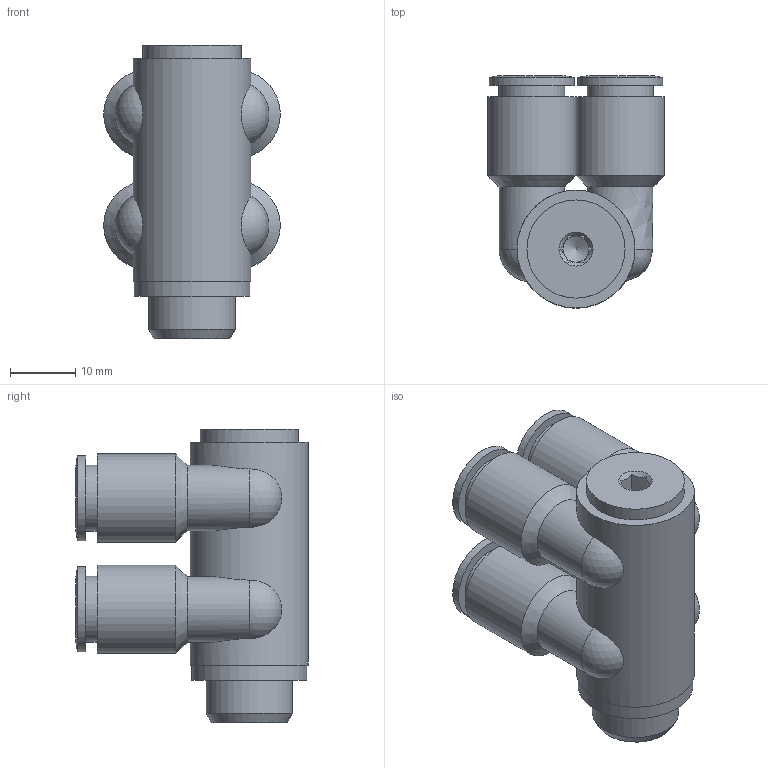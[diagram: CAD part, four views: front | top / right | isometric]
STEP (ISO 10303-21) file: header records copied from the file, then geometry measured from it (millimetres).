
FILE_DESCRIPTION((''),'2;1');
FILE_NAME('C:\Documents and Settings\rivolro1\Documenti\copia di Raccordi\PLASTICA\T33BXXXX\T33B0814.stp','2007-11-03T08:04:04',('Rivolro1'),(''),'Autodesk Inventor 2008','Autodesk Inventor 2008','');
FILE_SCHEMA(('AUTOMOTIVE_DESIGN { 1 0 10303 214 1 1 1 1 }'));
Length unit declared in the file: millimetre
Products named in the file (1): T33B0814
Bounding box: 27 x 35.5 x 44.8 mm (x, y, z)
Volume: 16097.2 mm3; surface area: 9615.9 mm2
Topology: 1 solids, 1 shells, 89 faces, 174 edges, 106 vertices
Faces by surface type: bspline 41, plane 23, cylinder 18, cone 5, sphere 2
Full cylindrical faces by diameter (mm): 6.2 x2, 10 x2, 10.1 x2, 13 x2, 13.2 x1, 13.5 x2, 15 x1, 17.6 x1, 18 x1
Entity records: 3060 total; most frequent: CARTESIAN_POINT 1513, DIRECTION 270, ORIENTED_EDGE 246, EDGE_LOOP 148, EDGE_CURVE 123, AXIS2_PLACEMENT_3D 122, VERTEX_POINT 91, FACE_OUTER_BOUND 89
